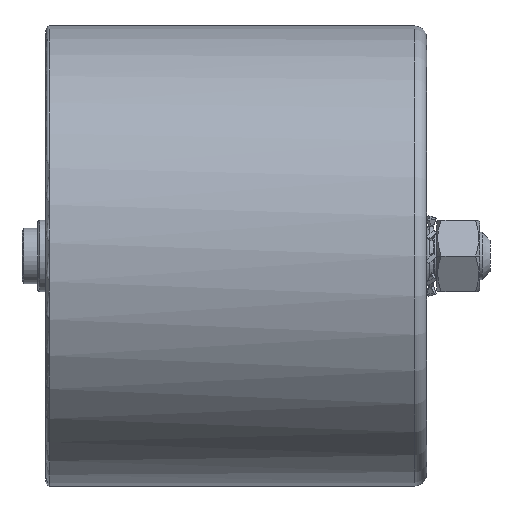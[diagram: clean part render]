
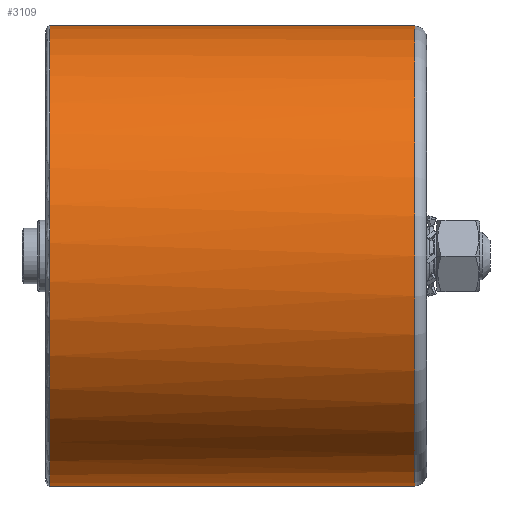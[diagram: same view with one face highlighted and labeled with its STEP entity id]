
A CAD part, left-side view. The second image highlights one B-rep face of the part: STEP entity #3109.
In plain terms, the highlighted cylindrical face has radius 58 mm (diameter 116 mm), a partial arc.
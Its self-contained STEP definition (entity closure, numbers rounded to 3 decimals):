
#72 = AXIS2_PLACEMENT_3D ( 'NONE', #9743, #3998, #11872 ) ;
#275 = EDGE_CURVE ( 'NONE', #10249, #6892, #8846, .T. ) ;
#562 = CARTESIAN_POINT ( 'NONE',  ( 0., 95., -58. ) ) ;
#806 = AXIS2_PLACEMENT_3D ( 'NONE', #11841, #7874, #11780 ) ;
#1320 = ORIENTED_EDGE ( 'NONE', *, *, #275, .T. ) ;
#1580 = ORIENTED_EDGE ( 'NONE', *, *, #7863, .T. ) ;
#1751 = CARTESIAN_POINT ( 'NONE',  ( 0., 86., 0. ) ) ;
#3069 = VECTOR ( 'NONE', #10387, 1000. ) ;
#3092 = DIRECTION ( 'NONE',  ( 0., -1., 0. ) ) ;
#3109 = ADVANCED_FACE ( 'NONE', ( #7442 ), #6479, .T. ) ;
#3119 = ORIENTED_EDGE ( 'NONE', *, *, #10834, .T. ) ;
#3455 = VECTOR ( 'NONE', #3092, 1000. ) ;
#3493 = CARTESIAN_POINT ( 'NONE',  ( 0., 3., 58. ) ) ;
#3601 = DIRECTION ( 'NONE',  ( 0., -1., 0. ) ) ;
#3998 = DIRECTION ( 'NONE',  ( 0., -1., 0. ) ) ;
#4529 = CARTESIAN_POINT ( 'NONE',  ( 0., 86., -58. ) ) ;
#4685 = AXIS2_PLACEMENT_3D ( 'NONE', #7804, #11716, #9708 ) ;
#4737 = VERTEX_POINT ( 'NONE', #11358 ) ;
#4775 = ORIENTED_EDGE ( 'NONE', *, *, #9835, .T. ) ;
#5153 = LINE ( 'NONE', #11856, #3455 ) ;
#5428 = LINE ( 'NONE', #4529, #3069 ) ;
#5535 = DIRECTION ( 'NONE',  ( 0., 0., -1. ) ) ;
#5711 = CIRCLE ( 'NONE', #4685, 58. ) ;
#6322 = CIRCLE ( 'NONE', #806, 58. ) ;
#6479 = CYLINDRICAL_SURFACE ( 'NONE', #7525, 58. ) ;
#6500 = ORIENTED_EDGE ( 'NONE', *, *, #8410, .F. ) ;
#6892 = VERTEX_POINT ( 'NONE', #562 ) ;
#7442 = FACE_OUTER_BOUND ( 'NONE', #9322, .T. ) ;
#7525 = AXIS2_PLACEMENT_3D ( 'NONE', #1751, #3601, #5535 ) ;
#7804 = CARTESIAN_POINT ( 'NONE',  ( 0., 95., 0. ) ) ;
#7863 = EDGE_CURVE ( 'NONE', #4737, #10249, #5711, .T. ) ;
#7874 = DIRECTION ( 'NONE',  ( 0., 1., 0. ) ) ;
#8410 = EDGE_CURVE ( 'NONE', #4737, #12665, #5153, .T. ) ;
#8846 = CIRCLE ( 'NONE', #72, 58. ) ;
#9322 = EDGE_LOOP ( 'NONE', ( #6500, #1580, #1320, #3119, #4775 ) ) ;
#9708 = DIRECTION ( 'NONE',  ( -0.707, 0., -0.707 ) ) ;
#9743 = CARTESIAN_POINT ( 'NONE',  ( 0., 95., 0. ) ) ;
#9835 = EDGE_CURVE ( 'NONE', #10294, #12665, #6322, .T. ) ;
#10249 = VERTEX_POINT ( 'NONE', #11711 ) ;
#10294 = VERTEX_POINT ( 'NONE', #11245 ) ;
#10387 = DIRECTION ( 'NONE',  ( 0., -1., 0. ) ) ;
#10834 = EDGE_CURVE ( 'NONE', #6892, #10294, #5428, .T. ) ;
#11245 = CARTESIAN_POINT ( 'NONE',  ( 0., 3., -58. ) ) ;
#11358 = CARTESIAN_POINT ( 'NONE',  ( 0., 95., 58. ) ) ;
#11711 = CARTESIAN_POINT ( 'NONE',  ( -41.012, 95., -41.012 ) ) ;
#11716 = DIRECTION ( 'NONE',  ( 0., -1., 0. ) ) ;
#11780 = DIRECTION ( 'NONE',  ( 0., 0., 1. ) ) ;
#11841 = CARTESIAN_POINT ( 'NONE',  ( 0., 3., 0. ) ) ;
#11856 = CARTESIAN_POINT ( 'NONE',  ( 0., 86., 58. ) ) ;
#11872 = DIRECTION ( 'NONE',  ( -0.707, 0., -0.707 ) ) ;
#12665 = VERTEX_POINT ( 'NONE', #3493 ) ;
